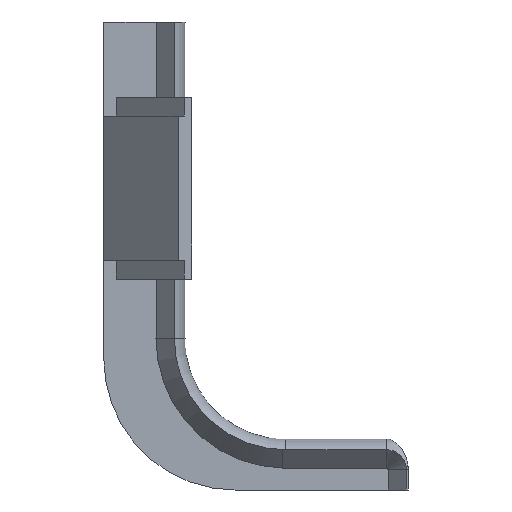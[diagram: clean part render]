
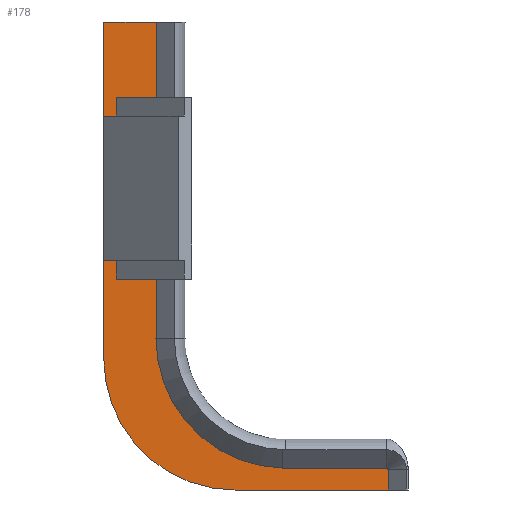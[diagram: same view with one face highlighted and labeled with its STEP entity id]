
A CAD part, left-side view. The second image highlights one B-rep face of the part: STEP entity #178.
In plain terms, the highlighted planar face has unit normal (-1, 0, 0).
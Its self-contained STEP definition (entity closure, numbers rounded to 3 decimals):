
#178 = ADVANCED_FACE( '', ( #354 ), #355, .F. );
#354 = FACE_OUTER_BOUND( '', #549, .T. );
#355 = PLANE( '', #550 );
#549 = EDGE_LOOP( '', ( #927, #928, #929, #930, #931, #932, #933, #934, #935, #936, #937, #938, #939, #940, #941, #942, #943, #944, #945, #946 ) );
#550 = AXIS2_PLACEMENT_3D( '', #947, #948, #949 );
#927 = ORIENTED_EDGE( '', *, *, #1190, .F. );
#928 = ORIENTED_EDGE( '', *, *, #1234, .F. );
#929 = ORIENTED_EDGE( '', *, *, #1097, .T. );
#930 = ORIENTED_EDGE( '', *, *, #1154, .T. );
#931 = ORIENTED_EDGE( '', *, *, #1093, .F. );
#932 = ORIENTED_EDGE( '', *, *, #1178, .T. );
#933 = ORIENTED_EDGE( '', *, *, #1214, .F. );
#934 = ORIENTED_EDGE( '', *, *, #1241, .F. );
#935 = ORIENTED_EDGE( '', *, *, #1225, .F. );
#936 = ORIENTED_EDGE( '', *, *, #1129, .F. );
#937 = ORIENTED_EDGE( '', *, *, #1181, .T. );
#938 = ORIENTED_EDGE( '', *, *, #1193, .T. );
#939 = ORIENTED_EDGE( '', *, *, #1168, .F. );
#940 = ORIENTED_EDGE( '', *, *, #1242, .T. );
#941 = ORIENTED_EDGE( '', *, *, #1243, .T. );
#942 = ORIENTED_EDGE( '', *, *, #1244, .T. );
#943 = ORIENTED_EDGE( '', *, *, #1124, .F. );
#944 = ORIENTED_EDGE( '', *, *, #1202, .F. );
#945 = ORIENTED_EDGE( '', *, *, #1215, .F. );
#946 = ORIENTED_EDGE( '', *, *, #1196, .F. );
#947 = CARTESIAN_POINT( '', ( -1., 16.523, 16.228 ) );
#948 = DIRECTION( '', ( 1., 0., 0. ) );
#949 = DIRECTION( '', ( 0., 0., -1. ) );
#1093 = EDGE_CURVE( '', #1294, #1296, #1297, .T. );
#1097 = EDGE_CURVE( '', #1303, #1301, #1304, .T. );
#1124 = EDGE_CURVE( '', #1350, #1343, #1352, .T. );
#1129 = EDGE_CURVE( '', #1359, #1354, #1361, .T. );
#1154 = EDGE_CURVE( '', #1301, #1296, #1401, .T. );
#1168 = EDGE_CURVE( '', #1418, #1419, #1420, .T. );
#1178 = EDGE_CURVE( '', #1294, #1282, #1434, .T. );
#1181 = EDGE_CURVE( '', #1359, #1437, #1438, .T. );
#1190 = EDGE_CURVE( '', #1450, #1446, #1452, .T. );
#1193 = EDGE_CURVE( '', #1437, #1419, #1455, .T. );
#1196 = EDGE_CURVE( '', #1446, #1287, #1458, .T. );
#1202 = EDGE_CURVE( '', #1464, #1350, #1466, .T. );
#1214 = EDGE_CURVE( '', #1481, #1282, #1482, .T. );
#1215 = EDGE_CURVE( '', #1287, #1464, #1483, .T. );
#1225 = EDGE_CURVE( '', #1354, #1494, #1495, .T. );
#1234 = EDGE_CURVE( '', #1303, #1450, #1506, .T. );
#1241 = EDGE_CURVE( '', #1494, #1481, #1515, .T. );
#1242 = EDGE_CURVE( '', #1418, #1516, #1517, .T. );
#1243 = EDGE_CURVE( '', #1516, #1518, #1519, .T. );
#1244 = EDGE_CURVE( '', #1518, #1343, #1520, .T. );
#1282 = VERTEX_POINT( '', #1565 );
#1287 = VERTEX_POINT( '', #1572 );
#1294 = VERTEX_POINT( '', #1582 );
#1296 = VERTEX_POINT( '', #1585 );
#1297 = LINE( '', #1586, #1587 );
#1301 = VERTEX_POINT( '', #1592 );
#1303 = VERTEX_POINT( '', #1595 );
#1304 = LINE( '', #1596, #1597 );
#1343 = VERTEX_POINT( '', #1662 );
#1350 = VERTEX_POINT( '', #1672 );
#1352 = LINE( '', #1675, #1676 );
#1354 = VERTEX_POINT( '', #1678 );
#1359 = VERTEX_POINT( '', #1685 );
#1361 = LINE( '', #1688, #1689 );
#1401 = LINE( '', #1758, #1759 );
#1418 = VERTEX_POINT( '', #1782 );
#1419 = VERTEX_POINT( '', #1783 );
#1420 = LINE( '', #1784, #1785 );
#1434 = LINE( '', #1806, #1807 );
#1437 = VERTEX_POINT( '', #1811 );
#1438 = CIRCLE( '', #1812, 0.199 );
#1446 = VERTEX_POINT( '', #1821 );
#1450 = VERTEX_POINT( '', #1827 );
#1452 = LINE( '', #1830, #1831 );
#1455 = LINE( '', #1834, #1835 );
#1458 = LINE( '', #1839, #1840 );
#1464 = VERTEX_POINT( '', #1848 );
#1466 = LINE( '', #1851, #1852 );
#1481 = VERTEX_POINT( '', #1874 );
#1482 = LINE( '', #1875, #1876 );
#1483 = LINE( '', #1877, #1878 );
#1494 = VERTEX_POINT( '', #1907 );
#1495 = LINE( '', #1908, #1909 );
#1506 = LINE( '', #1928, #1929 );
#1515 = CIRCLE( '', #1941, 15. );
#1516 = VERTEX_POINT( '', #1942 );
#1517 = LINE( '', #1943, #1944 );
#1518 = VERTEX_POINT( '', #1945 );
#1519 = CIRCLE( '', #1946, 14.84 );
#1520 = LINE( '', #1947, #1948 );
#1565 = CARTESIAN_POINT( '', ( -1., 34.6, 26.25 ) );
#1572 = CARTESIAN_POINT( '', ( -1., 34.6, 42.75 ) );
#1582 = CARTESIAN_POINT( '', ( -1., 33.186, 26.25 ) );
#1585 = CARTESIAN_POINT( '', ( -1., 33.186, 24.1 ) );
#1586 = CARTESIAN_POINT( '', ( -1., 33.186, 44.9 ) );
#1587 = VECTOR( '', #2008, 1000. );
#1592 = CARTESIAN_POINT( '', ( -1., 31.489, 24.1 ) );
#1595 = CARTESIAN_POINT( '', ( -1., 31.489, 44.9 ) );
#1596 = CARTESIAN_POINT( '', ( -1., 31.489, 44.9 ) );
#1597 = VECTOR( '', #2011, 1000. );
#1662 = CARTESIAN_POINT( '', ( -1., 28.601, 17.34 ) );
#1672 = CARTESIAN_POINT( '', ( -1., 28.601, 53.5 ) );
#1675 = CARTESIAN_POINT( '', ( -1., 28.601, 53.5 ) );
#1676 = VECTOR( '', #2041, 1000. );
#1678 = CARTESIAN_POINT( '', ( -1., 2.1, 0. ) );
#1685 = CARTESIAN_POINT( '', ( -1., 2.1, 2.3 ) );
#1688 = CARTESIAN_POINT( '', ( -1., 2.1, 2.3 ) );
#1689 = VECTOR( '', #2045, 1000. );
#1758 = CARTESIAN_POINT( '', ( -1., 31.489, 24.1 ) );
#1759 = VECTOR( '', #2069, 1000. );
#1782 = CARTESIAN_POINT( '', ( -1., 14.209, 2.5 ) );
#1783 = CARTESIAN_POINT( '', ( -1., 2.299, 2.5 ) );
#1784 = CARTESIAN_POINT( '', ( -1., 14.209, 2.5 ) );
#1785 = VECTOR( '', #2085, 1000. );
#1806 = CARTESIAN_POINT( '', ( -1., 33.186, 26.25 ) );
#1807 = VECTOR( '', #2093, 1000. );
#1811 = CARTESIAN_POINT( '', ( -1., 2.299, 2.499 ) );
#1812 = AXIS2_PLACEMENT_3D( '', #2095, #2096, #2097 );
#1821 = CARTESIAN_POINT( '', ( -1., 33.186, 42.75 ) );
#1827 = CARTESIAN_POINT( '', ( -1., 33.186, 44.9 ) );
#1830 = CARTESIAN_POINT( '', ( -1., 33.186, 44.9 ) );
#1831 = VECTOR( '', #2108, 1000. );
#1834 = CARTESIAN_POINT( '', ( -1., 2.299, 16.228 ) );
#1835 = VECTOR( '', #2112, 1000. );
#1839 = CARTESIAN_POINT( '', ( -1., 33.186, 42.75 ) );
#1840 = VECTOR( '', #2114, 1000. );
#1848 = CARTESIAN_POINT( '', ( -1., 34.6, 53.5 ) );
#1851 = CARTESIAN_POINT( '', ( -1., 34.6, 53.5 ) );
#1852 = VECTOR( '', #2118, 1000. );
#1874 = CARTESIAN_POINT( '', ( -1., 34.6, 15. ) );
#1875 = CARTESIAN_POINT( '', ( -1., 34.6, 15. ) );
#1876 = VECTOR( '', #2129, 1000. );
#1877 = CARTESIAN_POINT( '', ( -1., 34.6, 15. ) );
#1878 = VECTOR( '', #2130, 1000. );
#1907 = CARTESIAN_POINT( '', ( -1., 19.6, 0. ) );
#1908 = CARTESIAN_POINT( '', ( -1., 0., 0. ) );
#1909 = VECTOR( '', #2139, 1000. );
#1928 = CARTESIAN_POINT( '', ( -1., 31.489, 44.9 ) );
#1929 = VECTOR( '', #2151, 1000. );
#1941 = AXIS2_PLACEMENT_3D( '', #2155, #2156, #2157 );
#1942 = CARTESIAN_POINT( '', ( -1., 14.209, 2.506 ) );
#1943 = CARTESIAN_POINT( '', ( -1., 14.209, 16.228 ) );
#1944 = VECTOR( '', #2158, 1000. );
#1945 = CARTESIAN_POINT( '', ( -1., 28.639, 17.34 ) );
#1946 = AXIS2_PLACEMENT_3D( '', #2159, #2160, #2161 );
#1947 = CARTESIAN_POINT( '', ( -1., 29.501, 17.34 ) );
#1948 = VECTOR( '', #2162, 1000. );
#2008 = DIRECTION( '', ( 0., 0., -1. ) );
#2011 = DIRECTION( '', ( 0., 0., -1. ) );
#2041 = DIRECTION( '', ( 0., 0., -1. ) );
#2045 = DIRECTION( '', ( 0., 0., -1. ) );
#2069 = DIRECTION( '', ( 0., 1., 0. ) );
#2085 = DIRECTION( '', ( 0., -1., 0. ) );
#2093 = DIRECTION( '', ( 0., 1., 0. ) );
#2095 = CARTESIAN_POINT( '', ( -1., 2.299, 2.3 ) );
#2096 = DIRECTION( '', ( -1., 0., 0. ) );
#2097 = DIRECTION( '', ( 0., 0., 1. ) );
#2108 = DIRECTION( '', ( 0., 0., -1. ) );
#2112 = DIRECTION( '', ( 0., 0., 1. ) );
#2114 = DIRECTION( '', ( 0., 1., 0. ) );
#2118 = DIRECTION( '', ( 0., -1., 0. ) );
#2129 = DIRECTION( '', ( 0., 0., 1. ) );
#2130 = DIRECTION( '', ( 0., 0., 1. ) );
#2139 = DIRECTION( '', ( 0., 1., 0. ) );
#2151 = DIRECTION( '', ( 0., 1., 0. ) );
#2155 = CARTESIAN_POINT( '', ( -1., 19.6, 15. ) );
#2156 = DIRECTION( '', ( 1., 0., 0. ) );
#2157 = DIRECTION( '', ( 0., 0., -1. ) );
#2158 = DIRECTION( '', ( 0., 0., 1. ) );
#2159 = CARTESIAN_POINT( '', ( -1., 13.799, 17.34 ) );
#2160 = DIRECTION( '', ( 1., 0., 0. ) );
#2161 = DIRECTION( '', ( 0., 0., -1. ) );
#2162 = DIRECTION( '', ( 0., -1., 0. ) );
